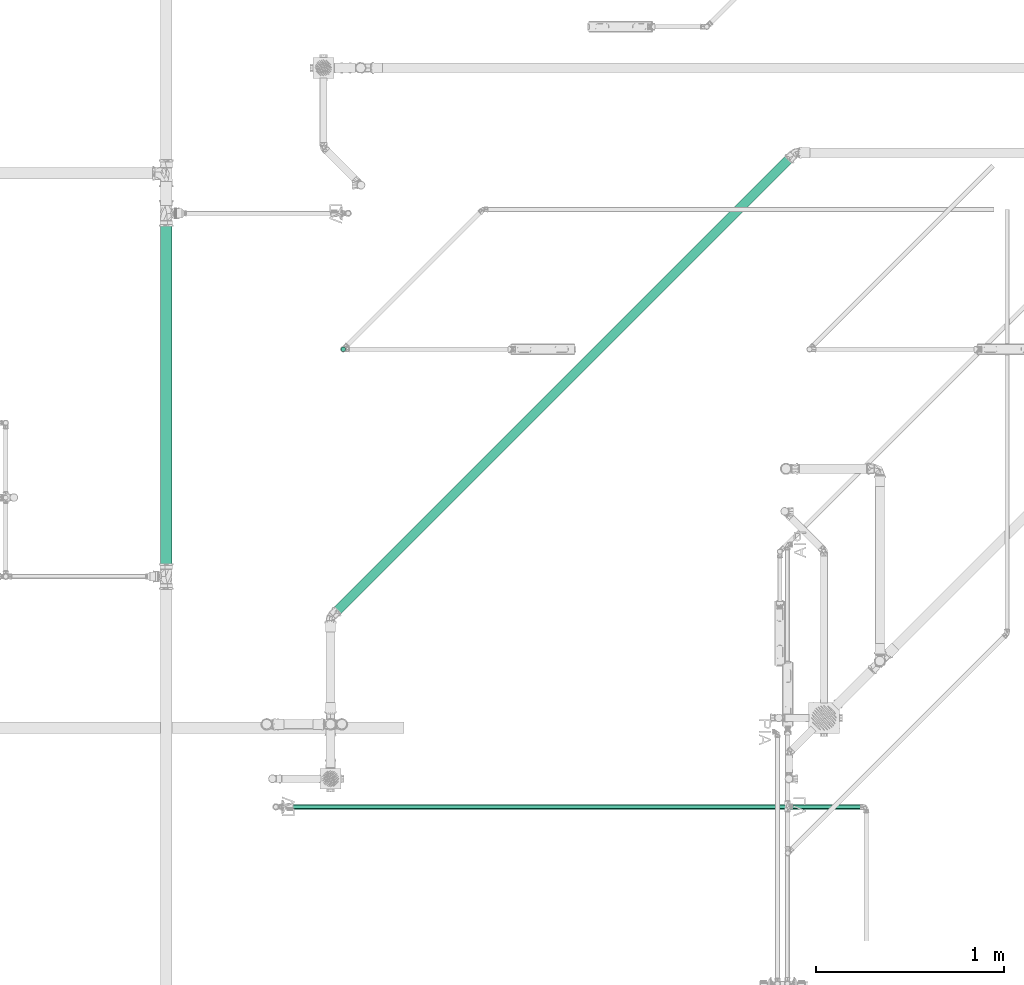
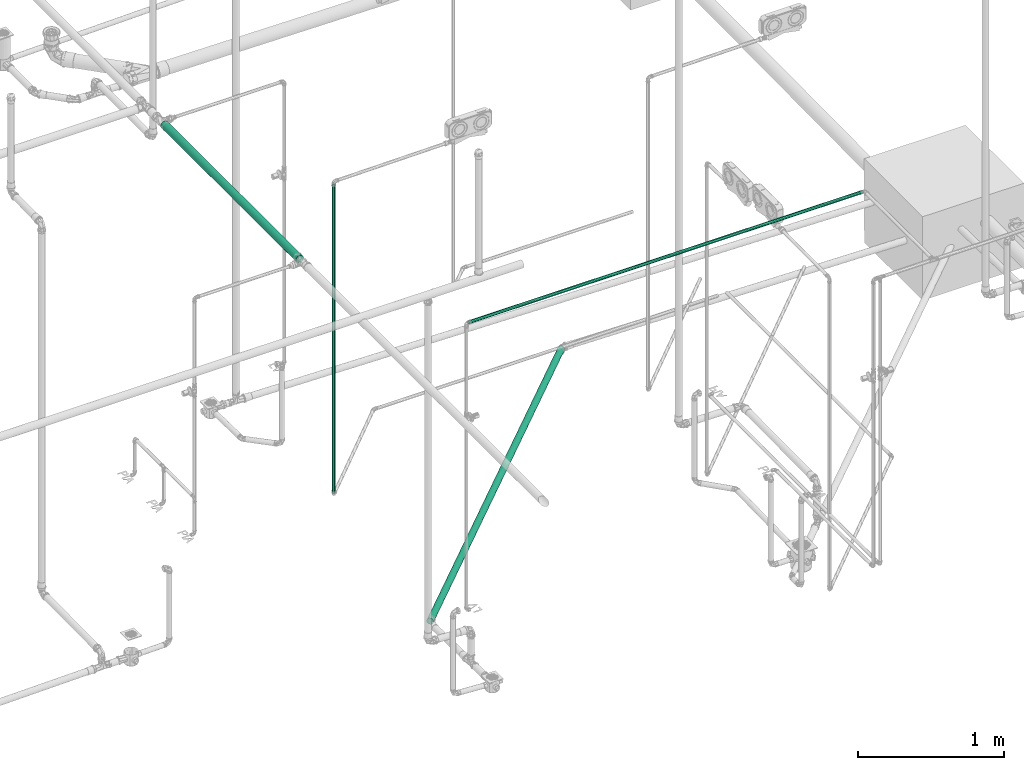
# One storey, part 12 of 589: 4 flow segments.
"""IFC2X3 building model written with IfcOpenShell, lengths in millimetres."""

import ifcopenshell
import ifcopenshell.guid

model = None  # the IFC model being written
_history = None  # IfcOwnerHistory: only IFC2X3 demands one
_inside = {}  # id of a spatial element -> (the spatial element, [elements in it])
_under = {}  # id of a project, library or spatial element -> (it, [spatial elements below it])
_declared = {}  # id of a project -> (the project, [libraries it declares])
_typed = {}  # id of a type object -> (the type object, [elements of that type])
_made_of = {}  # id of a material, layer set ... -> (it, [elements and type objects made of it])


def new_model(schema):
    """Start an empty IFC model of exactly this schema.

    Asked for "IFC4X3", IfcOpenShell would pick the latest addendum, in which some entities
    have other attributes; the version numbers below select the first issue.
    IFC2X3 requires an IfcOwnerHistory on every rooted entity: one is made here for all.
    """
    global model, _history
    if schema == "IFC4X3":
        model = ifcopenshell.file(schema_version=(4, 3, 0, 0))
    else:
        model = ifcopenshell.file(schema=schema)
    _inside.clear()
    _under.clear()
    _declared.clear()
    _typed.clear()
    _made_of.clear()
    _history = None
    if model.schema == "IFC2X3":
        org = make("IfcOrganization", Name="unknown")
        user = make(
            "IfcPersonAndOrganization",
            ThePerson=make("IfcPerson", FamilyName="unknown"),
            TheOrganization=org,
        )
        app = make(
            "IfcApplication",
            ApplicationDeveloper=org,
            Version="unknown",
            ApplicationFullName="unknown",
            ApplicationIdentifier="unknown",
        )
        _history = make(
            "IfcOwnerHistory",
            OwningUser=user,
            OwningApplication=app,
            ChangeAction="ADDED",
            CreationDate=0,
        )
    return model


def make(cls, **values):
    """One entity of the class cls with the attributes given. An attribute that is None is left unset."""
    return model.create_entity(
        cls, **{name: value for name, value in values.items() if value is not None}
    )


def entity(cls, *values):
    """Any entity or typed value of the class cls, its attributes in the order of the schema. None: left unset."""
    e = model.create_entity(cls)
    for i, value in enumerate(values):
        if value is not None:
            e[i] = value
    return e


def rooted(cls, **values):
    """An entity with a GlobalId (a new one), such as an element, a storey or a relation."""
    return make(cls, GlobalId=ifcopenshell.guid.new(), OwnerHistory=_history, **values)


def si_unit(unit_type, name, prefix=None):
    """IfcSIUnit, for example si_unit("LENGTHUNIT", "METRE", prefix="MILLI")."""
    return make("IfcSIUnit", UnitType=unit_type, Prefix=prefix, Name=name)


def converted_unit(unit_type, name, factor, base, dimensions=None, offset=None):
    """IfcConversionBasedUnit, such as the inch: factor (a typed value) times the base unit."""
    return make(
        "IfcConversionBasedUnit"
        if offset is None
        else "IfcConversionBasedUnitWithOffset",
        ConversionOffset=offset,
        Dimensions=None
        if dimensions is None
        else entity("IfcDimensionalExponents", *dimensions),
        UnitType=unit_type,
        Name=name,
        ConversionFactor=make(
            "IfcMeasureWithUnit", ValueComponent=factor, UnitComponent=base
        ),
    )


def derived_unit(unit_type, elements):
    """IfcDerivedUnit: a product of units, each with its exponent."""
    return make(
        "IfcDerivedUnit",
        Elements=[
            make("IfcDerivedUnitElement", Unit=unit, Exponent=power)
            for unit, power in elements
        ],
        UnitType=unit_type,
    )


def assignment(units):
    """IfcUnitAssignment: the units of a project."""
    return None if units is None else make("IfcUnitAssignment", Units=units)


def point(xyz):
    """IfcCartesianPoint."""
    return None if xyz is None else make("IfcCartesianPoint", Coordinates=xyz)


def direction(xyz):
    """IfcDirection."""
    return None if xyz is None else make("IfcDirection", DirectionRatios=xyz)


def frame(location, z_axis=None, x_axis=None):
    """IfcAxis2Placement3D, a coordinate frame: its origin and axes. An axis left out is left unset."""
    return make(
        "IfcAxis2Placement3D",
        Location=point(location),
        Axis=direction(z_axis),
        RefDirection=direction(x_axis),
    )


def frame_2d(location, x_axis=None):
    """IfcAxis2Placement2D, a coordinate frame in the plane: its origin and x axis."""
    return make(
        "IfcAxis2Placement2D", Location=point(location), RefDirection=direction(x_axis)
    )


def origin():
    """The frame at (0, 0, 0) with its axes left unset."""
    return frame((0.0, 0.0, 0.0))


def origin_2d_with_axis():
    """The frame at (0, 0) in the plane with the x axis (1, 0) written out."""
    return frame_2d((0.0, 0.0), x_axis=(1.0, 0.0))


def place(relative_to, where):
    """IfcLocalPlacement: puts the frame where relative to a parent placement (None: the world)."""
    return make(
        "IfcLocalPlacement", PlacementRelTo=relative_to, RelativePlacement=where
    )


def context(
    kind, dimensions, precision=None, world=None, true_north=None, identifier=None
):
    """IfcGeometricRepresentationContext, for example the 3D "Model" context."""
    return make(
        "IfcGeometricRepresentationContext",
        ContextIdentifier=identifier,
        ContextType=kind,
        CoordinateSpaceDimension=dimensions,
        Precision=precision,
        WorldCoordinateSystem=world,
        TrueNorth=true_north,
    )


def subcontext(parent, identifier, kind, view, scale=None):
    """IfcGeometricRepresentationSubContext, for example "Body" below "Model"."""
    return make(
        "IfcGeometricRepresentationSubContext",
        ContextIdentifier=identifier,
        ContextType=kind,
        ParentContext=parent,
        TargetScale=scale,
        TargetView=view,
    )


def project(units=None, contexts=None):
    """IfcProject with its units and contexts."""
    return rooted(
        "IfcProject",
        Name="project",
        RepresentationContexts=contexts,
        UnitsInContext=assignment(units),
    )


def spatial(cls, under=None, at=None, **own):
    """A site, building, storey or space (cls), placed at a placement, below another one or the project."""
    s = rooted(cls, ObjectPlacement=at, **own)
    if under is not None:
        _under.setdefault(under.id(), (under, []))[1].append(s)
    return s


def profile(cls, at=None, kind="AREA", **sizes):
    """A parametric profile (cls). Its sizes go by their IFC names, for example OverallWidth=200.0."""
    return make(cls, ProfileType=kind, Position=at, **sizes)


def circle(**sizes):
    """IfcCircleProfileDef."""
    return profile("IfcCircleProfileDef", **sizes)


def extrude(swept, where, along, depth):
    """IfcExtrudedAreaSolid: the profile swept, set in the frame where, extruded along a direction by depth."""
    return make(
        "IfcExtrudedAreaSolid",
        SweptArea=swept,
        Position=where,
        ExtrudedDirection=direction(along),
        Depth=depth,
    )


def shape(context_of_items, identifier, shape_type, items):
    """IfcShapeRepresentation: the items that make up one representation, for example the "Body"."""
    return make(
        "IfcShapeRepresentation",
        ContextOfItems=context_of_items,
        RepresentationIdentifier=identifier,
        RepresentationType=shape_type,
        Items=items,
    )


def made_of(thing, what):
    """Note that an element or type object is made of a material, layer set ...; save() writes the relation."""
    if what is not None:
        _made_of.setdefault(what.id(), (what, []))[1].append(thing)
    return thing


def type_object(cls, material=None, **own):
    """A type object (cls), such as IfcWallType, which elements share."""
    return made_of(rooted(cls, **own), material)


def element(
    cls,
    number,
    at=None,
    inside=None,
    cuts=None,
    type_object=None,
    material=None,
    context=None,
    identifier="Body",
    shape_type=None,
    held_by="IfcProductDefinitionShape",
    body=None,
    shapes=None,
    **own,
):
    """One element of the class cls, such as IfcWall. Its Tag is "e" and its number.

    at: its placement. inside: the storey or other place that contains it. cuts: it is an
    opening in that element (IfcRelVoidsElement). A single representation is given by context,
    identifier, shape_type and body (its items); several are given by shapes. held_by: the class
    of the entity that holds the representations. save() writes the other relations.
    """
    e = rooted(cls, Tag="e%d" % number, ObjectPlacement=at, **own)
    if body is not None:
        shapes = [shape(context, identifier, shape_type, body)]
    if shapes is not None:
        e.Representation = make(held_by, Representations=shapes)
    if inside is not None:
        _inside.setdefault(inside.id(), (inside, []))[1].append(e)
    if cuts is not None:
        rooted(
            "IfcRelVoidsElement", RelatingBuildingElement=cuts, RelatedOpeningElement=e
        )
    if type_object is not None:
        _typed.setdefault(type_object.id(), (type_object, []))[1].append(e)
    return made_of(e, material)


def aggregate(whole, parts):
    """IfcRelAggregates: a whole, such as a stair, and the parts it consists of."""
    return rooted("IfcRelAggregates", RelatingObject=whole, RelatedObjects=parts)


def save(model, path):
    """Write the relations noted so far, then the file.

    IfcRelAggregates (storeys below a building ...), IfcRelContainedInSpatialStructure (elements
    in a storey), IfcRelDefinesByType, IfcRelAssociatesMaterial and IfcRelDeclares: one each for
    every whole, place, type object, material and project.
    """
    for whole, parts in _under.values():
        aggregate(whole, parts)
    for where, things in _inside.values():
        rooted(
            "IfcRelContainedInSpatialStructure",
            RelatedElements=things,
            RelatingStructure=where,
        )
    for kind, things in _typed.values():
        rooted("IfcRelDefinesByType", RelatedObjects=things, RelatingType=kind)
    for what, things in _made_of.values():
        rooted("IfcRelAssociatesMaterial", RelatedObjects=things, RelatingMaterial=what)
    for by, libraries in _declared.values():
        rooted("IfcRelDeclares", RelatingContext=by, RelatedDefinitions=libraries)
    model.write(path)


model = new_model("IFC2X3")

# Units and contexts
model_context = context("Model", 3, precision=0.01, world=origin(), true_north=direction((6.123031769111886e-17, 1.0)))
body_context = subcontext(model_context, "Body", "Model", "MODEL_VIEW")
ifc_project = project(units=[si_unit("LENGTHUNIT", "METRE", prefix="MILLI"), si_unit("AREAUNIT", "SQUARE_METRE"), si_unit("VOLUMEUNIT", "CUBIC_METRE"), converted_unit("PLANEANGLEUNIT", "DEGREE", entity("IfcRatioMeasure", 0.017453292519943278), si_unit("PLANEANGLEUNIT", "RADIAN"), dimensions=[0, 0, 0, 0, 0, 0, 0]), si_unit("MASSUNIT", "GRAM", prefix="KILO"), derived_unit("MASSDENSITYUNIT", [(si_unit("MASSUNIT", "GRAM", prefix="KILO"), 1), (si_unit("LENGTHUNIT", "METRE"), -3)]), derived_unit("IONCONCENTRATIONUNIT", [(si_unit("MASSUNIT", "GRAM", prefix="KILO"), 1), (si_unit("LENGTHUNIT", "METRE"), -3)]), derived_unit("MOMENTOFINERTIAUNIT", [(si_unit("LENGTHUNIT", "METRE"), 4)]), si_unit("TIMEUNIT", "SECOND"), si_unit("FREQUENCYUNIT", "HERTZ"), si_unit("THERMODYNAMICTEMPERATUREUNIT", "DEGREE_CELSIUS"), derived_unit("THERMALTRANSMITTANCEUNIT", [(si_unit("MASSUNIT", "GRAM", prefix="KILO"), 1), (si_unit("THERMODYNAMICTEMPERATUREUNIT", "KELVIN"), -1), (si_unit("TIMEUNIT", "SECOND"), -3)]), derived_unit("THERMALCONDUCTANCEUNIT", [(si_unit("MASSUNIT", "GRAM", prefix="KILO"), 1), (si_unit("THERMODYNAMICTEMPERATUREUNIT", "KELVIN"), -1), (si_unit("TIMEUNIT", "SECOND"), -3), (si_unit("LENGTHUNIT", "METRE"), 1)]), derived_unit("VOLUMETRICFLOWRATEUNIT", [(si_unit("LENGTHUNIT", "METRE"), 3), (si_unit("TIMEUNIT", "SECOND"), -1)]), derived_unit("MASSFLOWRATEUNIT", [(si_unit("MASSUNIT", "GRAM", prefix="KILO"), 1), (si_unit("TIMEUNIT", "SECOND"), -1)]), derived_unit("ROTATIONALFREQUENCYUNIT", [(si_unit("TIMEUNIT", "SECOND"), -1)]), si_unit("ELECTRICCURRENTUNIT", "AMPERE"), si_unit("ELECTRICVOLTAGEUNIT", "VOLT"), si_unit("POWERUNIT", "WATT"), si_unit("FORCEUNIT", "NEWTON", prefix="KILO"), si_unit("ILLUMINANCEUNIT", "LUX"), si_unit("LUMINOUSFLUXUNIT", "LUMEN"), si_unit("LUMINOUSINTENSITYUNIT", "CANDELA"), derived_unit("USERDEFINED", [(si_unit("MASSUNIT", "GRAM", prefix="KILO"), -1), (si_unit("LENGTHUNIT", "METRE"), -2), (si_unit("TIMEUNIT", "SECOND"), 3), (si_unit("LUMINOUSFLUXUNIT", "LUMEN"), 1)]), derived_unit("USERDEFINED", [(si_unit("MASSUNIT", "GRAM", prefix="KILO"), 1), (si_unit("TIMEUNIT", "SECOND"), -3), (si_unit("LENGTHUNIT", "METRE"), 3), (si_unit("ELECTRICCURRENTUNIT", "AMPERE"), -2)]), derived_unit("SOUNDPOWERUNIT", [(si_unit("MASSUNIT", "GRAM", prefix="KILO"), 1), (si_unit("TIMEUNIT", "SECOND"), -3), (si_unit("LENGTHUNIT", "METRE"), 2)]), derived_unit("SOUNDPRESSUREUNIT", [(si_unit("MASSUNIT", "GRAM", prefix="KILO"), 1), (si_unit("LENGTHUNIT", "METRE"), -1), (si_unit("TIMEUNIT", "SECOND"), -2)]), derived_unit("LINEARVELOCITYUNIT", [(si_unit("LENGTHUNIT", "METRE"), 1), (si_unit("TIMEUNIT", "SECOND"), -1)]), si_unit("PRESSUREUNIT", "PASCAL"), derived_unit("USERDEFINED", [(si_unit("MASSUNIT", "GRAM", prefix="KILO"), 1), (si_unit("LENGTHUNIT", "METRE"), -2), (si_unit("TIMEUNIT", "SECOND"), -2)]), derived_unit("LINEARFORCEUNIT", [(si_unit("MASSUNIT", "GRAM", prefix="KILO"), 1), (si_unit("TIMEUNIT", "SECOND"), -2)]), derived_unit("PLANARFORCEUNIT", [(si_unit("MASSUNIT", "GRAM", prefix="KILO"), 1), (si_unit("LENGTHUNIT", "METRE"), -1), (si_unit("TIMEUNIT", "SECOND"), -2)]), derived_unit("SPECIFICHEATCAPACITYUNIT", [(si_unit("THERMODYNAMICTEMPERATUREUNIT", "KELVIN"), -1), (si_unit("LENGTHUNIT", "METRE"), 2), (si_unit("TIMEUNIT", "SECOND"), -2)]), derived_unit("HEATINGVALUEUNIT", [(si_unit("LENGTHUNIT", "METRE"), 2), (si_unit("TIMEUNIT", "SECOND"), -2)]), derived_unit("VAPORPERMEABILITYUNIT", [(si_unit("LENGTHUNIT", "METRE"), -1), (si_unit("TIMEUNIT", "SECOND"), 1)]), derived_unit("DYNAMICVISCOSITYUNIT", [(si_unit("MASSUNIT", "GRAM", prefix="KILO"), 1), (si_unit("TIMEUNIT", "SECOND"), -1), (si_unit("LENGTHUNIT", "METRE"), -1)]), derived_unit("THERMALEXPANSIONCOEFFICIENTUNIT", [(si_unit("THERMODYNAMICTEMPERATUREUNIT", "KELVIN"), -1)]), derived_unit("MODULUSOFELASTICITYUNIT", [(si_unit("MASSUNIT", "GRAM", prefix="KILO"), 1), (si_unit("LENGTHUNIT", "METRE"), -1), (si_unit("TIMEUNIT", "SECOND"), -2)]), derived_unit("ISOTHERMALMOISTURECAPACITYUNIT", [(si_unit("LENGTHUNIT", "METRE"), 3), (si_unit("MASSUNIT", "GRAM", prefix="KILO"), -1)]), derived_unit("MOISTUREDIFFUSIVITYUNIT", [(si_unit("TIMEUNIT", "SECOND"), -1), (si_unit("LENGTHUNIT", "METRE"), 2)])], contexts=[model_context])

# Site, building, storey
site_placement = place(None, origin())
site = spatial("IfcSite", under=ifc_project, at=site_placement, Name="Default", CompositionType="ELEMENT")
building_placement = place(site_placement, origin())
building = spatial("IfcBuilding", under=site, at=building_placement, CompositionType="ELEMENT")
storey_placement = place(building_placement, frame((0.0, 0.0, 100.0)))
storey = spatial("IfcBuildingStorey", under=building, at=storey_placement, Name="TÉRREO", CompositionType="ELEMENT", Elevation=100.0)

# Flow segments
pipe_segment_type_1 = type_object("IfcPipeSegmentType", Name="Tipos de tubos:PVC Esgoto Série Normal", PredefinedType="NOTDEFINED")
flow_segment_1_placement = place(storey_placement, origin())
element("IfcFlowSegment", 1, at=flow_segment_1_placement, inside=storey, type_object=pipe_segment_type_1, Name="Tipos de tubos:PVC Esgoto Série Normal", ObjectType="Tipos de tubos:PVC Esgoto Série Normal", context=body_context, shape_type="SweptSolid", body=[
    extrude(circle(Radius=25.0, at=frame_2d((2.991026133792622e-14, -1.6318330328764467e-14), x_axis=(1.0, 0.0))), frame((4932.222916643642, 70.31592329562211, -214.95265543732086), z_axis=(0.7069654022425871, 0.7069654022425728, -0.019996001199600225), x_axis=(0.7071067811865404, -0.7071067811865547, 0.0)), (0.0, 0.0, 1.0), 3468.805524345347),
])
pipe_segment_type_2 = type_object("IfcPipeSegmentType", Name="Tipos de tubos:PVC Marrom Soldável", PredefinedType="NOTDEFINED")
flow_segment_2_placement = place(storey_placement, origin())
element("IfcFlowSegment", 2, at=flow_segment_2_placement, inside=storey, type_object=pipe_segment_type_2, Name="Tipos de tubos:PVC Marrom Soldável", ObjectType="Tipos de tubos:PVC Marrom Soldável", context=body_context, shape_type="SweptSolid", body=[
    extrude(circle(Radius=12.5, at=frame_2d((-6.284231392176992e-19, 2.707167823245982e-13), x_axis=(1.0, 0.0))), frame((4988.246737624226, 1487.2074695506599, -20.752482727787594)), (0.0, 0.0, 1.0), 2581.88936658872),
])
flow_segment_3_placement = place(storey_placement, origin())
element("IfcFlowSegment", 3, at=flow_segment_3_placement, inside=storey, type_object=pipe_segment_type_2, Name="Tipos de tubos:PVC Marrom Soldável", ObjectType="Tipos de tubos:PVC Marrom Soldável", context=body_context, shape_type="SweptSolid", body=[
    extrude(circle(Radius=30.0, at=origin_2d_with_axis()), frame((4045.7158682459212, 318.21812904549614, 2970.0), z_axis=(0.0, 1.0, 0.0), x_axis=(-1.0, 0.0, 0.0)), (0.0, 0.0, 1.0), 1851.952188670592),
])
flow_segment_4_placement = place(storey_placement, origin())
element("IfcFlowSegment", 4, at=flow_segment_4_placement, inside=storey, type_object=pipe_segment_type_2, Name="Tipos de tubos:PVC Marrom Soldável", ObjectType="Tipos de tubos:PVC Marrom Soldável", context=body_context, shape_type="SweptSolid", body=[
    extrude(circle(Radius=12.5, at=origin_2d_with_axis()), frame((4644.953225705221, -949.8765311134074, 3000.0), z_axis=(1.0, 0.0, 0.0), x_axis=(0.0, -1.0, 0.0)), (0.0, 0.0, 1.0), 3113.7935785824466),
])

save(model, "model.ifc")
